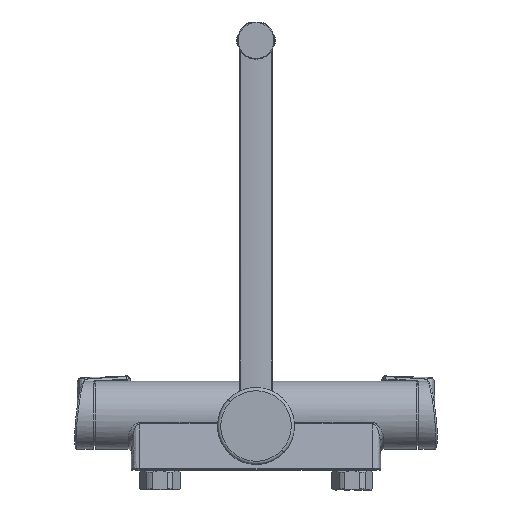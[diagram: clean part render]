
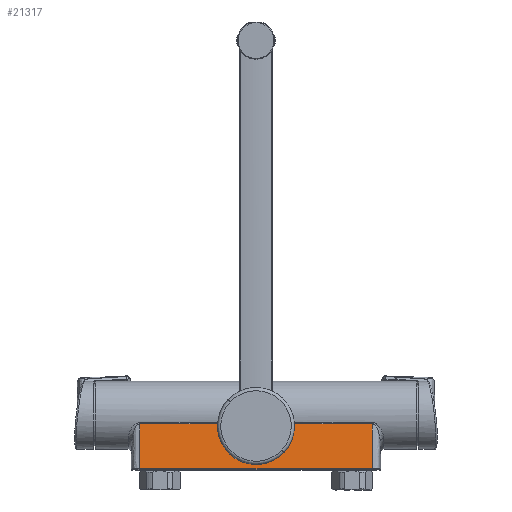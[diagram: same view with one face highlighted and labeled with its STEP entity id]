
A CAD part, front view. The second image highlights one B-rep face of the part: STEP entity #21317.
In plain terms, the highlighted planar face has unit normal (0, -0.995, 0.099).
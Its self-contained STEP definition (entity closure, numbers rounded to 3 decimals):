
#218 = CARTESIAN_POINT ( 'NONE',  ( -13.9, -26.263, 50.8 ) ) ;
#656 = VECTOR ( 'NONE', #23157, 1000. ) ;
#1726 = CARTESIAN_POINT ( 'NONE',  ( 14.029, -26.17, 51.733 ) ) ;
#1824 = CARTESIAN_POINT ( 'NONE',  ( 96.5, -29.638, 16.879 ) ) ;
#1976 = ORIENTED_EDGE ( 'NONE', *, *, #7504, .T. ) ;
#2758 = LINE ( 'NONE', #9810, #25118 ) ;
#3506 = EDGE_CURVE ( 'NONE', #15820, #25900, #6464, .T. ) ;
#3515 = CARTESIAN_POINT ( 'NONE',  ( -13.9, -26.263, 50.8 ) ) ;
#4037 = DIRECTION ( 'NONE',  ( 1., 0., 0. ) ) ;
#4054 = CARTESIAN_POINT ( 'NONE',  ( 90.65, -29.638, 16.879 ) ) ;
#4517 = EDGE_CURVE ( 'NONE', #25900, #9289, #27090, .T. ) ;
#4747 = VECTOR ( 'NONE', #4037, 1000. ) ;
#4918 = VERTEX_POINT ( 'NONE', #8435 ) ;
#5494 = DIRECTION ( 'NONE',  ( 0.002, 0.099, 0.995 ) ) ;
#5964 = AXIS2_PLACEMENT_3D ( 'NONE', #11070, #26181, #13240 ) ;
#6046 = CARTESIAN_POINT ( 'NONE',  ( 13.9, -26.263, 50.8 ) ) ;
#6078 = CARTESIAN_POINT ( 'NONE',  ( -13.869, -26.17, 51.733 ) ) ;
#6356 = EDGE_CURVE ( 'NONE', #20621, #25499, #8512, .T. ) ;
#6464 = LINE ( 'NONE', #20998, #656 ) ;
#7504 = EDGE_CURVE ( 'NONE', #25499, #15820, #17131, .T. ) ;
#7605 = ORIENTED_EDGE ( 'NONE', *, *, #4517, .T. ) ;
#8435 = CARTESIAN_POINT ( 'NONE',  ( 13.869, -26.17, 51.733 ) ) ;
#8512 =( BOUNDED_CURVE ( )  B_SPLINE_CURVE ( 3, ( #16520, #14350, #22911, #3515 ),
 .UNSPECIFIED., .F., .T. ) 
 B_SPLINE_CURVE_WITH_KNOTS ( ( 4, 4 ),
 ( 4.712, 7.854 ),
 .UNSPECIFIED. ) 
 CURVE ( )  GEOMETRIC_REPRESENTATION_ITEM ( )  RATIONAL_B_SPLINE_CURVE ( ( 1., 0.333, 0.333, 1. ) ) 
 REPRESENTATION_ITEM ( '' )  );
#8886 = ORIENTED_EDGE ( 'NONE', *, *, #20372, .T. ) ;
#9289 = VERTEX_POINT ( 'NONE', #27520 ) ;
#9532 = CARTESIAN_POINT ( 'NONE',  ( -13.9, -26.232, 51.111 ) ) ;
#9660 = VERTEX_POINT ( 'NONE', #18029 ) ;
#9810 = CARTESIAN_POINT ( 'NONE',  ( 90.647, -29.775, 15.5 ) ) ;
#9943 = CARTESIAN_POINT ( 'NONE',  ( 13.869, -26.17, 51.733 ) ) ;
#11070 = CARTESIAN_POINT ( 'NONE',  ( 96.5, -29.974, 13.5 ) ) ;
#11695 = CARTESIAN_POINT ( 'NONE',  ( -13.89, -26.201, 51.423 ) ) ;
#12249 = CARTESIAN_POINT ( 'NONE',  ( -90.73, -26.121, 52.229 ) ) ;
#12999 =( BOUNDED_CURVE ( )  B_SPLINE_CURVE ( 3, ( #9943, #22874, #27243, #14308 ),
 .UNSPECIFIED., .F., .T. ) 
 B_SPLINE_CURVE_WITH_KNOTS ( ( 4, 4 ),
 ( 4.645, 4.712 ),
 .UNSPECIFIED. ) 
 CURVE ( )  GEOMETRIC_REPRESENTATION_ITEM ( )  RATIONAL_B_SPLINE_CURVE ( ( 1., 1., 1., 1. ) ) 
 REPRESENTATION_ITEM ( '' )  );
#13240 = DIRECTION ( 'NONE',  ( 0., 0.099, 0.995 ) ) ;
#14129 = FACE_OUTER_BOUND ( 'NONE', #15090, .T. ) ;
#14308 = CARTESIAN_POINT ( 'NONE',  ( 13.9, -26.263, 50.8 ) ) ;
#14350 = CARTESIAN_POINT ( 'NONE',  ( 13.9, -29.029, 23. ) ) ;
#14769 = DIRECTION ( 'NONE',  ( -1., 0., 0. ) ) ;
#15035 = EDGE_CURVE ( 'NONE', #26580, #9660, #2758, .T. ) ;
#15090 = EDGE_LOOP ( 'NONE', ( #8886, #19903, #1976, #20121, #7605, #20756, #18336, #27654 ) ) ;
#15593 = VECTOR ( 'NONE', #27464, 1000. ) ;
#15820 = VERTEX_POINT ( 'NONE', #6078 ) ;
#16285 = LINE ( 'NONE', #1824, #4747 ) ;
#16520 = CARTESIAN_POINT ( 'NONE',  ( 13.9, -26.263, 50.8 ) ) ;
#16976 = LINE ( 'NONE', #1726, #22013 ) ;
#17131 =( BOUNDED_CURVE ( )  B_SPLINE_CURVE ( 3, ( #24617, #9532, #11695, #26818 ),
 .UNSPECIFIED., .F., .T. ) 
 B_SPLINE_CURVE_WITH_KNOTS ( ( 4, 4 ),
 ( 1.571, 1.638 ),
 .UNSPECIFIED. ) 
 CURVE ( )  GEOMETRIC_REPRESENTATION_ITEM ( )  RATIONAL_B_SPLINE_CURVE ( ( 1., 1., 1., 1. ) ) 
 REPRESENTATION_ITEM ( '' )  );
#18029 = CARTESIAN_POINT ( 'NONE',  ( 90.729, -26.17, 51.733 ) ) ;
#18336 = ORIENTED_EDGE ( 'NONE', *, *, #15035, .T. ) ;
#19483 = EDGE_CURVE ( 'NONE', #9660, #4918, #16976, .T. ) ;
#19512 = EDGE_CURVE ( 'NONE', #9289, #26580, #16285, .T. ) ;
#19903 = ORIENTED_EDGE ( 'NONE', *, *, #6356, .T. ) ;
#20121 = ORIENTED_EDGE ( 'NONE', *, *, #3506, .T. ) ;
#20372 = EDGE_CURVE ( 'NONE', #4918, #20621, #12999, .T. ) ;
#20621 = VERTEX_POINT ( 'NONE', #6046 ) ;
#20756 = ORIENTED_EDGE ( 'NONE', *, *, #19512, .T. ) ;
#20998 = CARTESIAN_POINT ( 'NONE',  ( -90.73, -26.17, 51.733 ) ) ;
#21317 = ADVANCED_FACE ( 'NONE', ( #14129 ), #23996, .F. ) ;
#22013 = VECTOR ( 'NONE', #14769, 1000. ) ;
#22874 = CARTESIAN_POINT ( 'NONE',  ( 13.89, -26.201, 51.423 ) ) ;
#22911 = CARTESIAN_POINT ( 'NONE',  ( -13.9, -29.029, 23. ) ) ;
#23157 = DIRECTION ( 'NONE',  ( -1., 0., 0. ) ) ;
#23996 = PLANE ( 'NONE',  #5964 ) ;
#24617 = CARTESIAN_POINT ( 'NONE',  ( -13.9, -26.263, 50.8 ) ) ;
#25118 = VECTOR ( 'NONE', #5494, 1000. ) ;
#25188 = CARTESIAN_POINT ( 'NONE',  ( -90.729, -26.17, 51.733 ) ) ;
#25499 = VERTEX_POINT ( 'NONE', #218 ) ;
#25900 = VERTEX_POINT ( 'NONE', #25188 ) ;
#26181 = DIRECTION ( 'NONE',  ( 0., 0.995, -0.099 ) ) ;
#26580 = VERTEX_POINT ( 'NONE', #4054 ) ;
#26818 = CARTESIAN_POINT ( 'NONE',  ( -13.869, -26.17, 51.733 ) ) ;
#27090 = LINE ( 'NONE', #12249, #15593 ) ;
#27243 = CARTESIAN_POINT ( 'NONE',  ( 13.9, -26.232, 51.111 ) ) ;
#27464 = DIRECTION ( 'NONE',  ( 0.002, -0.099, -0.995 ) ) ;
#27520 = CARTESIAN_POINT ( 'NONE',  ( -90.65, -29.638, 16.879 ) ) ;
#27654 = ORIENTED_EDGE ( 'NONE', *, *, #19483, .T. ) ;
